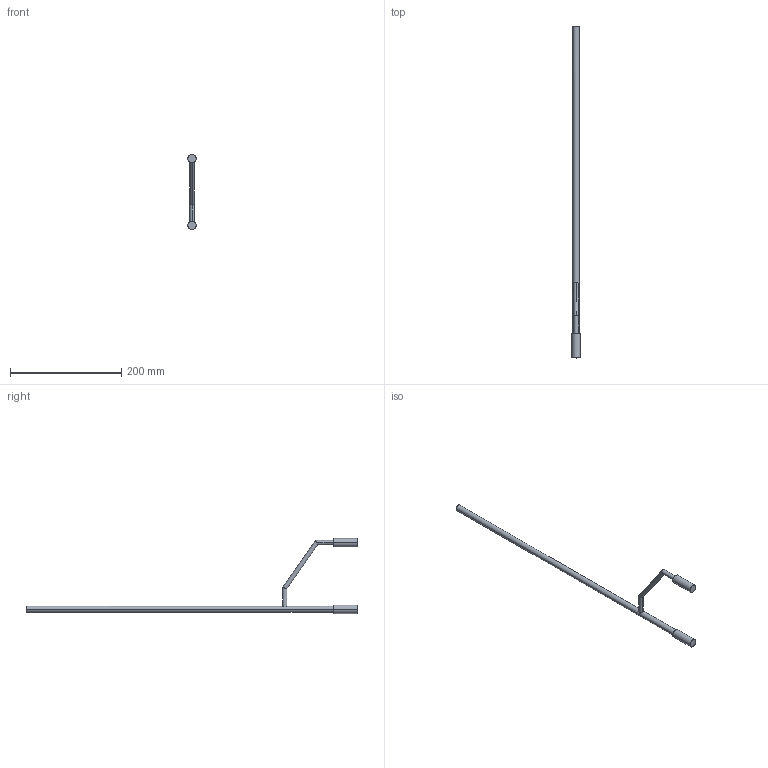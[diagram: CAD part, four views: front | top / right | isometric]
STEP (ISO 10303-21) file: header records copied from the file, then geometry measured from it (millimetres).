
FILE_DESCRIPTION (( 'STEP AP214' ), '1' );
FILE_NAME ('2S_RUL_Frontstütze_O710701300_600.step', '2011-10-10T13:18:01', ( 'grass' ), ( '' ), 'SwSTEP 2.0', 'SolidWorks 2011', '' );
FILE_SCHEMA (( 'AUTOMOTIVE_DESIGN' ));
Length unit declared in the file: millimetre
Products named in the file (1): 2S_RUL_Frontstütze_O710701300_600
Bounding box: 15 x 597.05 x 135 mm (x, y, z)
Volume: 41321.3 mm3; surface area: 43717.5 mm2
Topology: 1 solids, 1 shells, 33 faces, 74 edges, 48 vertices
Faces by surface type: cylinder 18, plane 15
Entity records: 1240 total; most frequent: CARTESIAN_POINT 454, DIRECTION 148, ORIENTED_EDGE 148, EDGE_CURVE 74, AXIS2_PLACEMENT_3D 56, VERTEX_POINT 48, EDGE_LOOP 42, LINE 36
